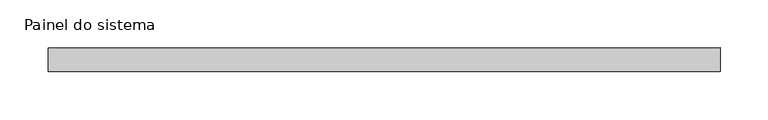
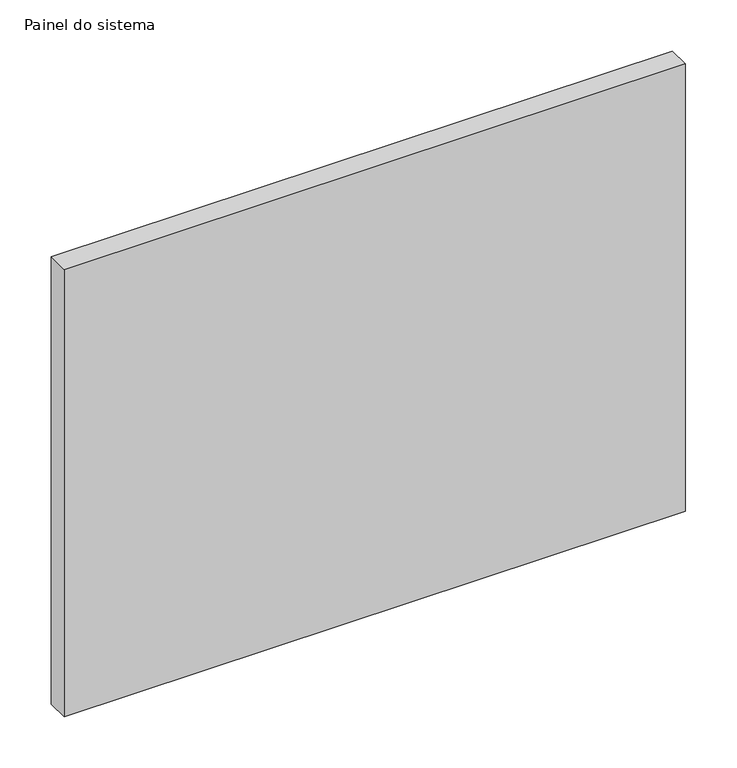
"""IFC4 building model written with IfcOpenShell, lengths in millimetres: plate geometry, Painel do sistema : Envidraçado."""

from ifc_helpers import new_model, si_unit, origin, origin_with_axes, place, context, project, spatial, polyline, outline, extrude, source, transform, mapped, element, save


def painel_do_sistema_ed0d9b61(model_context):
    return source(origin(), model_context, "Body", "SweptSolid", [
        extrude(outline(polyline([(350.0, 24.5), (-350.0, 24.5), (-350.0, 49.5), (350.0, 49.5), (350.0, 24.5)])), origin_with_axes(), (0.0, 0.0, 1.0), 532.5527297),
    ])


if __name__ == "__main__":
    model = new_model("IFC4")
    model_context = context("Model", 3, world=origin())
    ifc_project = project(units=[si_unit("LENGTHUNIT", "METRE", prefix="MILLI")], contexts=[model_context])
    site = spatial("IfcSite", under=ifc_project)
    building = spatial("IfcBuilding", under=site)
    placement = place(None, origin())
    painel_do_sistema_shape = painel_do_sistema_ed0d9b61(model_context)
    element("IfcPlate", 1, ObjectType="Painel do sistema : Envidraçado", at=placement, inside=building, context=model_context, shape_type="MappedRepresentation", body=[
        mapped(painel_do_sistema_shape, transform((0.0, 0.0, 0.0), x_axis=(1.0, 0.0, 0.0), y_axis=(0.0, 1.0, 0.0), z_axis=(0.0, 0.0, 1.0))),
    ])
    save(model, "model.ifc")
